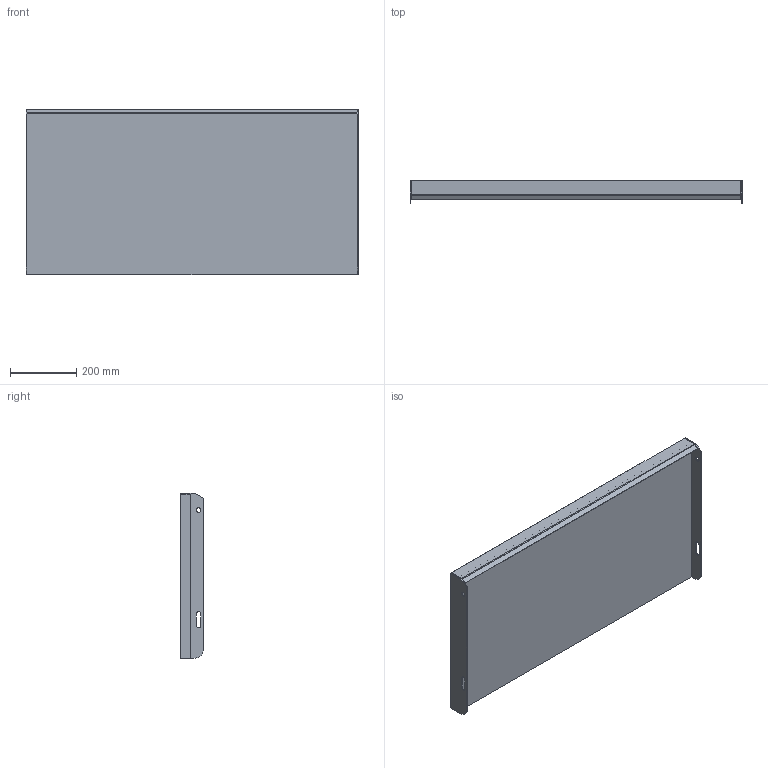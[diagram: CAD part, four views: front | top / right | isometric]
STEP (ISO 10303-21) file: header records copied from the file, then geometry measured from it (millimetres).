
FILE_DESCRIPTION (( 'STEP AP203' ), '1' );
FILE_NAME ('148810051, Plan TH6, 1000x500, vfz.STEP', '2020-10-21T13:11:01', ( '' ), ( '' ), 'SwSTEP 2.0', 'SolidWorks 2019', '' );
FILE_SCHEMA (( 'CONFIG_CONTROL_DESIGN' ));
Length unit declared in the file: millimetre
Products named in the file (4): SW0000041751; 148810051, Plan TH6, 1000x500, vfz; SW0000041378; SW0000041782
Assembly tree (4 placements, depth 2):
  148810051, Plan TH6, 1000x500, vfz
    SW0000041782
    SW0000041378  x2
    SW0000041751
Bounding box: 1000 x 70 x 497 mm (x, y, z)
Volume: 15111559.2 mm3; surface area: 1339079.4 mm2
Topology: 4 solids, 4 shells, 59 faces, 142 edges, 92 vertices
Faces by surface type: plane 45, cylinder 14
Entity records: 1693 total; most frequent: DIRECTION 221, CARTESIAN_POINT 220, ORIENTED_EDGE 206, EDGE_CURVE 103, VECTOR 87, LINE 87, AXIS2_PLACEMENT_3D 67, VERTEX_POINT 66
